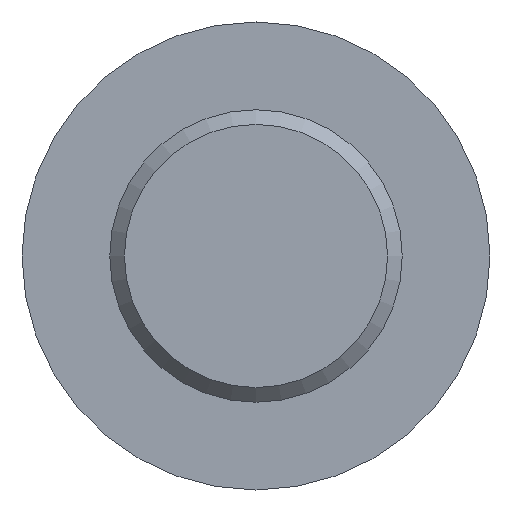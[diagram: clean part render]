
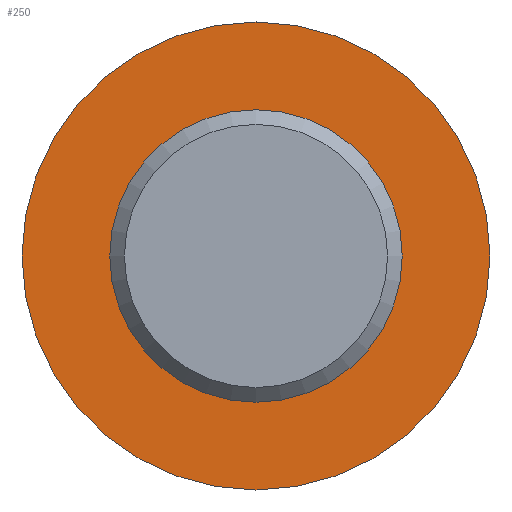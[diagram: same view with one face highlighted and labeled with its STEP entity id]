
A CAD part, front view. The second image highlights one B-rep face of the part: STEP entity #250.
In plain terms, the highlighted planar face has unit normal (0, -1, 0).
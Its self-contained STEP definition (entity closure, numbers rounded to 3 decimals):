
#17=FACE_BOUND('',#61,.T.);
#30=PLANE('',#303);
#43=FACE_OUTER_BOUND('',#60,.T.);
#60=EDGE_LOOP('',(#214,#215));
#61=EDGE_LOOP('',(#216,#217));
#100=CIRCLE('',#301,5.);
#101=CIRCLE('',#302,5.);
#102=CIRCLE('',#304,8.);
#103=CIRCLE('',#305,8.);
#126=VERTEX_POINT('',#456);
#127=VERTEX_POINT('',#457);
#128=VERTEX_POINT('',#462);
#129=VERTEX_POINT('',#463);
#157=EDGE_CURVE('',#126,#127,#100,.T.);
#158=EDGE_CURVE('',#127,#126,#101,.T.);
#160=EDGE_CURVE('',#128,#129,#102,.T.);
#161=EDGE_CURVE('',#129,#128,#103,.T.);
#214=ORIENTED_EDGE('',*,*,#160,.F.);
#215=ORIENTED_EDGE('',*,*,#161,.F.);
#216=ORIENTED_EDGE('',*,*,#157,.T.);
#217=ORIENTED_EDGE('',*,*,#158,.T.);
#250=ADVANCED_FACE('',(#43,#17),#30,.T.);
#301=AXIS2_PLACEMENT_3D('',#458,#375,#376);
#302=AXIS2_PLACEMENT_3D('',#459,#377,#378);
#303=AXIS2_PLACEMENT_3D('',#461,#380,#381);
#304=AXIS2_PLACEMENT_3D('',#464,#382,#383);
#305=AXIS2_PLACEMENT_3D('',#465,#384,#385);
#375=DIRECTION('center_axis',(0.,1.,0.));
#376=DIRECTION('ref_axis',(1.,0.,0.));
#377=DIRECTION('center_axis',(0.,1.,0.));
#378=DIRECTION('ref_axis',(1.,0.,0.));
#380=DIRECTION('center_axis',(0.,-1.,0.));
#381=DIRECTION('ref_axis',(0.,0.,-1.));
#382=DIRECTION('center_axis',(0.,1.,0.));
#383=DIRECTION('ref_axis',(1.,0.,0.));
#384=DIRECTION('center_axis',(0.,1.,0.));
#385=DIRECTION('ref_axis',(1.,0.,0.));
#456=CARTESIAN_POINT('',(0.,-339.,5.));
#457=CARTESIAN_POINT('',(0.,-339.,-5.));
#458=CARTESIAN_POINT('Origin',(0.,-339.,0.));
#459=CARTESIAN_POINT('Origin',(0.,-339.,0.));
#461=CARTESIAN_POINT('Origin',(0.,-339.,8.));
#462=CARTESIAN_POINT('',(0.,-339.,8.));
#463=CARTESIAN_POINT('',(0.,-339.,-8.));
#464=CARTESIAN_POINT('Origin',(0.,-339.,0.));
#465=CARTESIAN_POINT('Origin',(0.,-339.,0.));
